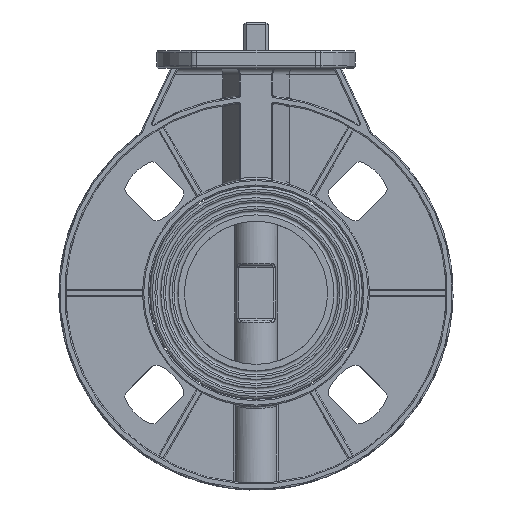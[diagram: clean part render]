
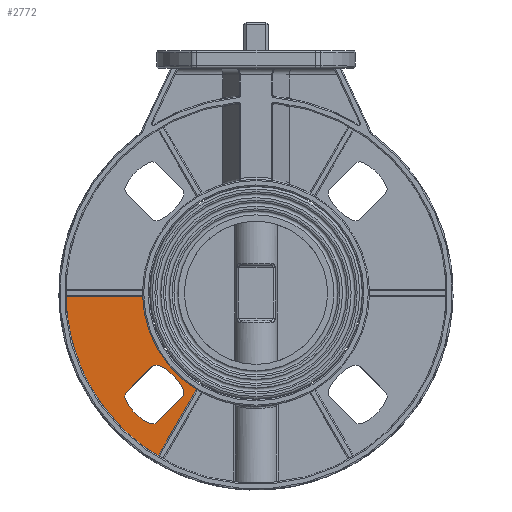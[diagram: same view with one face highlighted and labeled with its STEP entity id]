
A CAD part, top view. The second image highlights one B-rep face of the part: STEP entity #2772.
In plain terms, the highlighted planar face has unit normal (0, 0, 1).
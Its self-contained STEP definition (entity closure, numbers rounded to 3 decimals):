
#2772=ADVANCED_FACE('',(#8103,#8105),#8107,.T.);
#8103=FACE_BOUND('',#8104,.T.);
#8104=EDGE_LOOP('',(#11101,#11102,#11103,#11104));
#8105=FACE_BOUND('',#8106,.T.);
#8106=EDGE_LOOP('',(#11105,#11106,#11107,#11108,#11109,#11110,#11111,#11112));
#8107=PLANE('',#8108);
#8108=AXIS2_PLACEMENT_3D('',#8109,#8110,#8111);
#8109=CARTESIAN_POINT('',(-56.763,-37.825,3.5));
#8110=DIRECTION('',(0.,0.,1.));
#8111=DIRECTION('',(1.,0.,0.));
#11101=ORIENTED_EDGE('',*,*,#12641,.F.);
#11102=ORIENTED_EDGE('',*,*,#12482,.F.);
#11103=ORIENTED_EDGE('',*,*,#12642,.F.);
#11104=ORIENTED_EDGE('',*,*,#12451,.F.);
#11105=ORIENTED_EDGE('',*,*,#12643,.F.);
#11106=ORIENTED_EDGE('',*,*,#12644,.F.);
#11107=ORIENTED_EDGE('',*,*,#12645,.F.);
#11108=ORIENTED_EDGE('',*,*,#12646,.F.);
#11109=ORIENTED_EDGE('',*,*,#12647,.F.);
#11110=ORIENTED_EDGE('',*,*,#12648,.F.);
#11111=ORIENTED_EDGE('',*,*,#12649,.F.);
#11112=ORIENTED_EDGE('',*,*,#12650,.F.);
#12451=EDGE_CURVE('',#13991,#13993,#13994,.T.);
#12482=EDGE_CURVE('',#14050,#14052,#14053,.T.);
#12641=EDGE_CURVE('',#14052,#13991,#14300,.T.);
#12642=EDGE_CURVE('',#13993,#14050,#14301,.T.);
#12643=EDGE_CURVE('',#14302,#14303,#14304,.T.);
#12644=EDGE_CURVE('',#14305,#14302,#14306,.T.);
#12645=EDGE_CURVE('',#14307,#14305,#14308,.T.);
#12646=EDGE_CURVE('',#14309,#14307,#14310,.T.);
#12647=EDGE_CURVE('',#14311,#14309,#14312,.T.);
#12648=EDGE_CURVE('',#14313,#14311,#14314,.T.);
#12649=EDGE_CURVE('',#14315,#14313,#14316,.T.);
#12650=EDGE_CURVE('',#14303,#14315,#14317,.T.);
#13991=VERTEX_POINT('',#25488);
#13993=VERTEX_POINT('',#25492);
#13994=CIRCLE('',#25493,51.5);
#14050=VERTEX_POINT('',#26243);
#14052=VERTEX_POINT('',#26247);
#14053=CIRCLE('',#26248,86.5);
#14300=LINE('',#27923,#27924);
#14301=LINE('',#27926,#27927);
#14302=VERTEX_POINT('',#27929);
#14303=VERTEX_POINT('',#27930);
#14304=CIRCLE('',#27931,3.);
#14305=VERTEX_POINT('',#27935);
#14306=CIRCLE('',#27936,21.819);
#14307=VERTEX_POINT('',#27940);
#14308=CIRCLE('',#27941,3.);
#14309=VERTEX_POINT('',#27945);
#14310=LINE('',#27946,#27947);
#14311=VERTEX_POINT('',#27949);
#14312=CIRCLE('',#27950,3.);
#14313=VERTEX_POINT('',#27954);
#14314=CIRCLE('',#27955,21.819);
#14315=VERTEX_POINT('',#27959);
#14316=CIRCLE('',#27960,3.);
#14317=LINE('',#27964,#27965);
#25488=CARTESIAN_POINT('',(-51.478,-1.5,3.5));
#25492=CARTESIAN_POINT('',(-27.038,-43.831,3.5));
#25493=AXIS2_PLACEMENT_3D('',#25494,#25495,#25496);
#25494=CARTESIAN_POINT('',(0.,0.,3.5));
#25495=DIRECTION('',(0.,0.,1.));
#25496=DIRECTION('',(-1.,-0.029,0.));
#26243=CARTESIAN_POINT('',(-44.543,-74.15,3.5));
#26247=CARTESIAN_POINT('',(-86.487,-1.5,3.5));
#26248=AXIS2_PLACEMENT_3D('',#26249,#26250,#26251);
#26249=CARTESIAN_POINT('',(0.,0.,3.5));
#26250=DIRECTION('',(0.,0.,-1.));
#26251=DIRECTION('',(-0.515,-0.857,0.));
#27923=CARTESIAN_POINT('',(-86.487,-1.5,3.5));
#27924=VECTOR('',#27925,1.);
#27925=DIRECTION('',(1.,0.,0.));
#27926=CARTESIAN_POINT('',(-27.038,-43.831,3.5));
#27927=VECTOR('',#27928,1.);
#27928=DIRECTION('',(-0.5,-0.866,0.));
#27929=CARTESIAN_POINT('',(-48.354,-59.257,3.5));
#27930=CARTESIAN_POINT('',(-44.997,-58.645,3.5));
#27931=AXIS2_PLACEMENT_3D('',#27932,#27933,#27934);
#27932=CARTESIAN_POINT('',(-47.119,-56.523,3.5));
#27933=DIRECTION('',(0.,0.,1.));
#27934=DIRECTION('',(-0.412,-0.911,0.));
#27935=CARTESIAN_POINT('',(-59.257,-48.354,3.5));
#27936=AXIS2_PLACEMENT_3D('',#27937,#27938,#27939);
#27937=CARTESIAN_POINT('',(-39.372,-39.372,3.5));
#27938=DIRECTION('',(0.,0.,1.));
#27939=DIRECTION('',(-0.911,-0.412,0.));
#27940=CARTESIAN_POINT('',(-58.645,-44.997,3.5));
#27941=AXIS2_PLACEMENT_3D('',#27942,#27943,#27944);
#27942=CARTESIAN_POINT('',(-56.523,-47.119,3.5));
#27943=DIRECTION('',(0.,0.,1.));
#27944=DIRECTION('',(-0.707,0.707,0.));
#27945=CARTESIAN_POINT('',(-47.28,-33.633,3.5));
#27946=CARTESIAN_POINT('',(-47.28,-33.633,3.5));
#27947=VECTOR('',#27948,1.);
#27948=DIRECTION('',(-0.707,-0.707,0.));
#27949=CARTESIAN_POINT('',(-43.924,-33.02,3.5));
#27950=AXIS2_PLACEMENT_3D('',#27951,#27952,#27953);
#27951=CARTESIAN_POINT('',(-45.159,-35.754,3.5));
#27952=DIRECTION('',(0.,0.,1.));
#27953=DIRECTION('',(0.412,0.911,0.));
#27954=CARTESIAN_POINT('',(-33.02,-43.924,3.5));
#27955=AXIS2_PLACEMENT_3D('',#27956,#27957,#27958);
#27956=CARTESIAN_POINT('',(-52.905,-52.905,3.5));
#27957=DIRECTION('',(0.,0.,1.));
#27958=DIRECTION('',(0.911,0.412,0.));
#27959=CARTESIAN_POINT('',(-33.633,-47.28,3.5));
#27960=AXIS2_PLACEMENT_3D('',#27961,#27962,#27963);
#27961=CARTESIAN_POINT('',(-35.754,-45.159,3.5));
#27962=DIRECTION('',(0.,0.,1.));
#27963=DIRECTION('',(0.707,-0.707,0.));
#27964=CARTESIAN_POINT('',(-44.997,-58.645,3.5));
#27965=VECTOR('',#27966,1.);
#27966=DIRECTION('',(0.707,0.707,0.));
